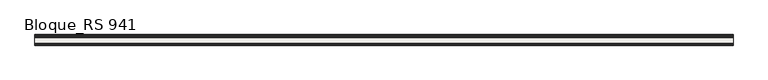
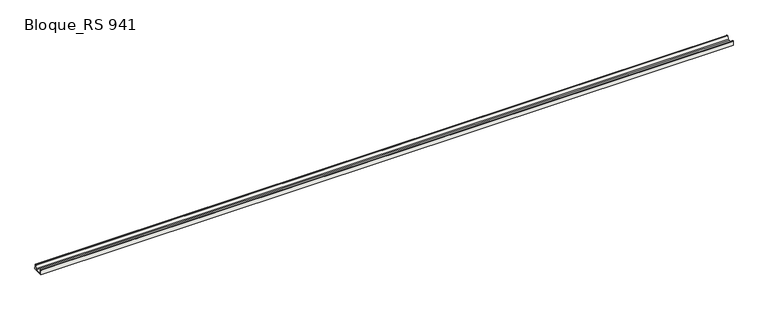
"""IFC4 building model written with IfcOpenShell, lengths in millimetres: slab geometry, ROSA GRES_RS 941 : Bloque_RS 941."""

import ifcopenshell
import ifcopenshell.guid

model = None  # the IFC model being written
_history = None  # IfcOwnerHistory: only IFC2X3 demands one
_inside = {}  # id of a spatial element -> (the spatial element, [elements in it])
_under = {}  # id of a project, library or spatial element -> (it, [spatial elements below it])
_declared = {}  # id of a project -> (the project, [libraries it declares])
_typed = {}  # id of a type object -> (the type object, [elements of that type])
_made_of = {}  # id of a material, layer set ... -> (it, [elements and type objects made of it])


def new_model(schema):
    """Start an empty IFC model of exactly this schema.

    Asked for "IFC4X3", IfcOpenShell would pick the latest addendum, in which some entities
    have other attributes; the version numbers below select the first issue.
    IFC2X3 requires an IfcOwnerHistory on every rooted entity: one is made here for all.
    """
    global model, _history
    if schema == "IFC4X3":
        model = ifcopenshell.file(schema_version=(4, 3, 0, 0))
    else:
        model = ifcopenshell.file(schema=schema)
    _inside.clear()
    _under.clear()
    _declared.clear()
    _typed.clear()
    _made_of.clear()
    _history = None
    if model.schema == "IFC2X3":
        org = make("IfcOrganization", Name="unknown")
        user = make(
            "IfcPersonAndOrganization",
            ThePerson=make("IfcPerson", FamilyName="unknown"),
            TheOrganization=org,
        )
        app = make(
            "IfcApplication",
            ApplicationDeveloper=org,
            Version="unknown",
            ApplicationFullName="unknown",
            ApplicationIdentifier="unknown",
        )
        _history = make(
            "IfcOwnerHistory",
            OwningUser=user,
            OwningApplication=app,
            ChangeAction="ADDED",
            CreationDate=0,
        )
    return model


def make(cls, **values):
    """One entity of the class cls with the attributes given. An attribute that is None is left unset."""
    return model.create_entity(
        cls, **{name: value for name, value in values.items() if value is not None}
    )


def rooted(cls, **values):
    """An entity with a GlobalId (a new one), such as an element, a storey or a relation."""
    return make(cls, GlobalId=ifcopenshell.guid.new(), OwnerHistory=_history, **values)


def si_unit(unit_type, name, prefix=None):
    """IfcSIUnit, for example si_unit("LENGTHUNIT", "METRE", prefix="MILLI")."""
    return make("IfcSIUnit", UnitType=unit_type, Prefix=prefix, Name=name)


def assignment(units):
    """IfcUnitAssignment: the units of a project."""
    return None if units is None else make("IfcUnitAssignment", Units=units)


def point(xyz):
    """IfcCartesianPoint."""
    return None if xyz is None else make("IfcCartesianPoint", Coordinates=xyz)


def direction(xyz):
    """IfcDirection."""
    return None if xyz is None else make("IfcDirection", DirectionRatios=xyz)


def frame(location, z_axis=None, x_axis=None):
    """IfcAxis2Placement3D, a coordinate frame: its origin and axes. An axis left out is left unset."""
    return make(
        "IfcAxis2Placement3D",
        Location=point(location),
        Axis=direction(z_axis),
        RefDirection=direction(x_axis),
    )


def frame_2d(location, x_axis=None):
    """IfcAxis2Placement2D, a coordinate frame in the plane: its origin and x axis."""
    return make(
        "IfcAxis2Placement2D", Location=point(location), RefDirection=direction(x_axis)
    )


def origin():
    """The frame at (0, 0, 0) with its axes left unset."""
    return frame((0.0, 0.0, 0.0))


def place(relative_to, where):
    """IfcLocalPlacement: puts the frame where relative to a parent placement (None: the world)."""
    return make(
        "IfcLocalPlacement", PlacementRelTo=relative_to, RelativePlacement=where
    )


def context(
    kind, dimensions, precision=None, world=None, true_north=None, identifier=None
):
    """IfcGeometricRepresentationContext, for example the 3D "Model" context."""
    return make(
        "IfcGeometricRepresentationContext",
        ContextIdentifier=identifier,
        ContextType=kind,
        CoordinateSpaceDimension=dimensions,
        Precision=precision,
        WorldCoordinateSystem=world,
        TrueNorth=true_north,
    )


def project(units=None, contexts=None):
    """IfcProject with its units and contexts."""
    return rooted(
        "IfcProject",
        Name="project",
        RepresentationContexts=contexts,
        UnitsInContext=assignment(units),
    )


def spatial(cls, under=None, at=None, **own):
    """A site, building, storey or space (cls), placed at a placement, below another one or the project."""
    s = rooted(cls, ObjectPlacement=at, **own)
    if under is not None:
        _under.setdefault(under.id(), (under, []))[1].append(s)
    return s


def polyline(points):
    """IfcPolyline through the points."""
    return make("IfcPolyline", Points=[point(p) for p in points])


def circle_curve(where, radius):
    """IfcCircle in the frame where."""
    return make("IfcCircle", Position=where, Radius=radius)


def trimmed(basis, trim1, trim2, sense, master):
    """IfcTrimmedCurve: the piece of a basis curve between two trims."""
    return make(
        "IfcTrimmedCurve",
        BasisCurve=basis,
        Trim1=trim1,
        Trim2=trim2,
        SenseAgreement=sense,
        MasterRepresentation=master,
    )


def segment(curve, same_sense, transition):
    """IfcCompositeCurveSegment."""
    return make(
        "IfcCompositeCurveSegment",
        Transition=transition,
        SameSense=same_sense,
        ParentCurve=curve,
    )


def composite_curve(segments, self_intersect=None):
    """IfcCompositeCurve: segments joined end to end."""
    return make("IfcCompositeCurve", Segments=segments, SelfIntersect=self_intersect)


def outline(outer, holes=None, kind="AREA"):
    """IfcArbitraryClosedProfileDef: a profile drawn as a closed curve; with holes, ...WithVoids."""
    if holes is None:
        return make("IfcArbitraryClosedProfileDef", ProfileType=kind, OuterCurve=outer)
    return make(
        "IfcArbitraryProfileDefWithVoids",
        ProfileType=kind,
        OuterCurve=outer,
        InnerCurves=holes,
    )


def extrude(swept, where, along, depth):
    """IfcExtrudedAreaSolid: the profile swept, set in the frame where, extruded along a direction by depth."""
    return make(
        "IfcExtrudedAreaSolid",
        SweptArea=swept,
        Position=where,
        ExtrudedDirection=direction(along),
        Depth=depth,
    )


def shape(context_of_items, identifier, shape_type, items):
    """IfcShapeRepresentation: the items that make up one representation, for example the "Body"."""
    return make(
        "IfcShapeRepresentation",
        ContextOfItems=context_of_items,
        RepresentationIdentifier=identifier,
        RepresentationType=shape_type,
        Items=items,
    )


def source(mapping_origin, context_of_items, identifier, shape_type, items):
    """IfcRepresentationMap: a shape defined once, which mapped items show again and again."""
    return make(
        "IfcRepresentationMap",
        MappingOrigin=mapping_origin,
        MappedRepresentation=shape(context_of_items, identifier, shape_type, items),
    )


def transform(
    local_origin,
    x_axis=None,
    y_axis=None,
    z_axis=None,
    scale=None,
    scale2=None,
    scale3=None,
    uniform=True,
):
    """IfcCartesianTransformationOperator3D, or its non-uniform kind. x_axis, y_axis, z_axis: its Axis1, 2, 3."""
    if uniform:
        return make(
            "IfcCartesianTransformationOperator3D",
            Axis1=direction(x_axis),
            Axis2=direction(y_axis),
            LocalOrigin=point(local_origin),
            Scale=scale,
            Axis3=direction(z_axis),
        )
    return make(
        "IfcCartesianTransformationOperator3DnonUniform",
        Axis1=direction(x_axis),
        Axis2=direction(y_axis),
        LocalOrigin=point(local_origin),
        Scale=scale,
        Axis3=direction(z_axis),
        Scale2=scale2,
        Scale3=scale3,
    )


def mapped(mapping_source, mapping_target):
    """IfcMappedItem: shows the shape of a source again, moved by a transform."""
    return make(
        "IfcMappedItem", MappingSource=mapping_source, MappingTarget=mapping_target
    )


def made_of(thing, what):
    """Note that an element or type object is made of a material, layer set ...; save() writes the relation."""
    if what is not None:
        _made_of.setdefault(what.id(), (what, []))[1].append(thing)
    return thing


def element(
    cls,
    number,
    at=None,
    inside=None,
    cuts=None,
    type_object=None,
    material=None,
    context=None,
    identifier="Body",
    shape_type=None,
    held_by="IfcProductDefinitionShape",
    body=None,
    shapes=None,
    **own,
):
    """One element of the class cls, such as IfcWall. Its Tag is "e" and its number.

    at: its placement. inside: the storey or other place that contains it. cuts: it is an
    opening in that element (IfcRelVoidsElement). A single representation is given by context,
    identifier, shape_type and body (its items); several are given by shapes. held_by: the class
    of the entity that holds the representations. save() writes the other relations.
    """
    e = rooted(cls, Tag="e%d" % number, ObjectPlacement=at, **own)
    if body is not None:
        shapes = [shape(context, identifier, shape_type, body)]
    if shapes is not None:
        e.Representation = make(held_by, Representations=shapes)
    if inside is not None:
        _inside.setdefault(inside.id(), (inside, []))[1].append(e)
    if cuts is not None:
        rooted(
            "IfcRelVoidsElement", RelatingBuildingElement=cuts, RelatedOpeningElement=e
        )
    if type_object is not None:
        _typed.setdefault(type_object.id(), (type_object, []))[1].append(e)
    return made_of(e, material)


def aggregate(whole, parts):
    """IfcRelAggregates: a whole, such as a stair, and the parts it consists of."""
    return rooted("IfcRelAggregates", RelatingObject=whole, RelatedObjects=parts)


def save(model, path):
    """Write the relations noted so far, then the file.

    IfcRelAggregates (storeys below a building ...), IfcRelContainedInSpatialStructure (elements
    in a storey), IfcRelDefinesByType, IfcRelAssociatesMaterial and IfcRelDeclares: one each for
    every whole, place, type object, material and project.
    """
    for whole, parts in _under.values():
        aggregate(whole, parts)
    for where, things in _inside.values():
        rooted(
            "IfcRelContainedInSpatialStructure",
            RelatedElements=things,
            RelatingStructure=where,
        )
    for kind, things in _typed.values():
        rooted("IfcRelDefinesByType", RelatedObjects=things, RelatingType=kind)
    for what, things in _made_of.values():
        rooted("IfcRelAssociatesMaterial", RelatedObjects=things, RelatingMaterial=what)
    for by, libraries in _declared.values():
        rooted("IfcRelDeclares", RelatingContext=by, RelatedDefinitions=libraries)
    model.write(path)


def bloque_rs_941_eeaf1ed6(model_context):
    return source(origin(), model_context, "Body", "SweptSolid", [
        extrude(outline(composite_curve([segment(polyline([(-290.7950654, 126.0), (-276.7901448, 126.0)]), True, "CONTINUOUS"), segment(trimmed(circle_curve(frame_2d((-276.7873115, 121.0029619)), 4.9970389), [point((-276.7901448, 126.0))], [point((-271.7950654, 121.221769))], False, "CARTESIAN"), True, "CONTINUOUS"), segment(polyline([(-271.7950654, 121.221769), (-271.7950654, 50.0)]), True, "CONTINUOUS"), segment(trimmed(circle_curve(frame_2d((-246.8549987, 49.9398968)), 24.9401391), [point((-271.7950654, 50.0))], [point((-246.7450654, 25.0))], True, "CARTESIAN"), True, "CONTINUOUS"), segment(polyline([(-246.7450654, 25.0), (-107.8238571, 25.0)]), True, "CONTINUOUS"), segment(trimmed(circle_curve(frame_2d((-107.6378199, 49.7467022)), 24.7474015), [point((-107.8238571, 25.0))], [point((-83.9689438, 42.5204875))], True, "CARTESIAN"), True, "CONTINUOUS"), segment(polyline([(-83.9689438, 42.5204875), (-58.8933079, 122.4959025)]), True, "CONTINUOUS"), segment(trimmed(circle_curve(frame_2d((-54.1351224, 121.0174239)), 4.9825925), [point((-58.8933079, 122.4959025))], [point((-54.1223252, 126.0))], False, "CARTESIAN"), True, "CONTINUOUS"), segment(polyline([(-54.1223252, 126.0), (-27.7946272, 126.0)]), True, "CONTINUOUS"), segment(trimmed(circle_curve(frame_2d((-27.7946272, 121.0)), 5.0), [point((-27.7946272, 126.0))], [point((-22.7946272, 121.0))], False, "CARTESIAN"), True, "CONTINUOUS"), segment(polyline([(-22.7946272, 121.0), (-22.7946272, 44.0), (-15.7946269, 32.0012714), (-15.7946269, 0.0), (-295.7950654, 0.0), (-295.7950654, 121.0)]), True, "CONTINUOUS"), segment(trimmed(circle_curve(frame_2d((-290.8048832, 121.0098178)), 4.9901918), [point((-295.7950654, 121.0))], [point((-290.7950654, 126.0))], False, "CARTESIAN"), True, "CONTINUOUS")], self_intersect=False)), frame((0.0, 0.0, 0.0), z_axis=(1.0, 0.0, 0.0), x_axis=(0.0, 1.0, 0.0)), (0.0, 0.0, 1.0), 18380.0),
    ])


if __name__ == "__main__":
    model = new_model("IFC4")
    model_context = context("Model", 3, world=origin())
    ifc_project = project(units=[si_unit("LENGTHUNIT", "METRE", prefix="MILLI")], contexts=[model_context])
    site = spatial("IfcSite", under=ifc_project)
    building = spatial("IfcBuilding", under=site)
    placement = place(None, origin())
    bloque_rs_941_shape = bloque_rs_941_eeaf1ed6(model_context)
    element("IfcSlab", 1, ObjectType="ROSA GRES_RS 941 : Bloque_RS 941", at=placement, inside=building, context=model_context, shape_type="MappedRepresentation", body=[
        mapped(bloque_rs_941_shape, transform((0.0, 0.0, 0.0), x_axis=(1.0, 0.0, 0.0), y_axis=(0.0, 1.0, 0.0), z_axis=(0.0, 0.0, 1.0))),
    ])
    save(model, "model.ifc")
